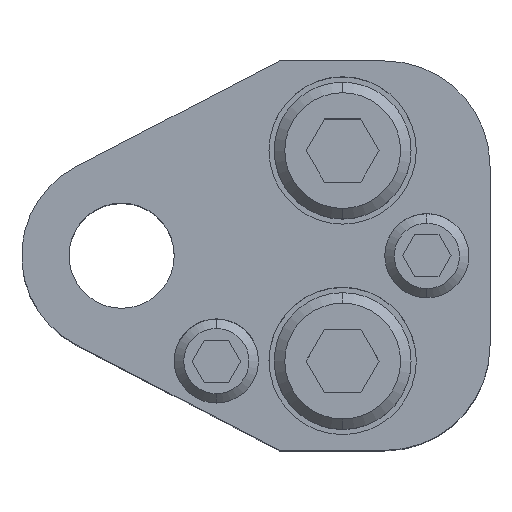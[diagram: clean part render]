
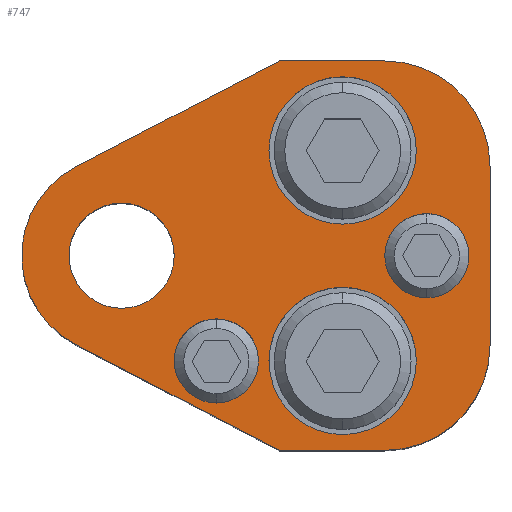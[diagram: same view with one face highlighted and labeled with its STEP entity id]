
A CAD part, top view. The second image highlights one B-rep face of the part: STEP entity #747.
In plain terms, the highlighted planar face has unit normal (0, 0, 1).
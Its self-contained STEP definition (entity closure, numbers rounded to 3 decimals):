
#429=LINE('',#3637,#593);
#433=LINE('',#3646,#597);
#437=LINE('',#3658,#601);
#441=LINE('',#3670,#605);
#444=LINE('',#3676,#608);
#593=VECTOR('',#2930,1.);
#597=VECTOR('',#2936,1.);
#601=VECTOR('',#2948,1.);
#605=VECTOR('',#2960,1.);
#608=VECTOR('',#2965,1.);
#747=ADVANCED_FACE('',(#853,#854,#855,#856,#857,#858),#823,.T.);
#823=PLANE('',#2443);
#853=FACE_BOUND('',#997,.T.);
#854=FACE_BOUND('',#998,.T.);
#855=FACE_BOUND('',#999,.T.);
#856=FACE_BOUND('',#1000,.T.);
#857=FACE_BOUND('',#1001,.T.);
#858=FACE_BOUND('',#1002,.T.);
#997=EDGE_LOOP('',(#1511,#1512,#1513,#1514,#1515,#1516,#1517,#1518));
#998=EDGE_LOOP('',(#1519,#1520));
#999=EDGE_LOOP('',(#1521,#1522));
#1000=EDGE_LOOP('',(#1523,#1524));
#1001=EDGE_LOOP('',(#1525,#1526));
#1002=EDGE_LOOP('',(#1527,#1528));
#1511=ORIENTED_EDGE('',*,*,#2004,.T.);
#1512=ORIENTED_EDGE('',*,*,#2008,.T.);
#1513=ORIENTED_EDGE('',*,*,#2011,.T.);
#1514=ORIENTED_EDGE('',*,*,#2014,.T.);
#1515=ORIENTED_EDGE('',*,*,#2017,.T.);
#1516=ORIENTED_EDGE('',*,*,#2020,.T.);
#1517=ORIENTED_EDGE('',*,*,#2023,.T.);
#1518=ORIENTED_EDGE('',*,*,#2026,.T.);
#1519=ORIENTED_EDGE('',*,*,#2061,.F.);
#1520=ORIENTED_EDGE('',*,*,#2062,.F.);
#1521=ORIENTED_EDGE('',*,*,#2063,.F.);
#1522=ORIENTED_EDGE('',*,*,#2064,.F.);
#1523=ORIENTED_EDGE('',*,*,#2051,.F.);
#1524=ORIENTED_EDGE('',*,*,#2047,.F.);
#1525=ORIENTED_EDGE('',*,*,#2045,.F.);
#1526=ORIENTED_EDGE('',*,*,#2041,.F.);
#1527=ORIENTED_EDGE('',*,*,#2065,.T.);
#1528=ORIENTED_EDGE('',*,*,#2066,.T.);
#1744=VERTEX_POINT('',#3636);
#1745=VERTEX_POINT('',#3638);
#1748=VERTEX_POINT('',#3645);
#1750=VERTEX_POINT('',#3651);
#1752=VERTEX_POINT('',#3657);
#1754=VERTEX_POINT('',#3663);
#1756=VERTEX_POINT('',#3669);
#1758=VERTEX_POINT('',#3675);
#1771=VERTEX_POINT('',#3712);
#1772=VERTEX_POINT('',#3713);
#1775=VERTEX_POINT('',#3724);
#1776=VERTEX_POINT('',#3725);
#1783=VERTEX_POINT('',#3752);
#1784=VERTEX_POINT('',#3753);
#1785=VERTEX_POINT('',#3756);
#1786=VERTEX_POINT('',#3757);
#1787=VERTEX_POINT('',#3760);
#1788=VERTEX_POINT('',#3761);
#2004=EDGE_CURVE('',#1745,#1744,#429,.T.);
#2008=EDGE_CURVE('',#1744,#1748,#433,.T.);
#2011=EDGE_CURVE('',#1748,#1750,#2171,.T.);
#2014=EDGE_CURVE('',#1750,#1752,#437,.T.);
#2017=EDGE_CURVE('',#1752,#1754,#2173,.T.);
#2020=EDGE_CURVE('',#1754,#1756,#441,.T.);
#2023=EDGE_CURVE('',#1756,#1758,#444,.T.);
#2026=EDGE_CURVE('',#1758,#1745,#2176,.T.);
#2041=EDGE_CURVE('',#1771,#1772,#2189,.T.);
#2045=EDGE_CURVE('',#1772,#1771,#2191,.T.);
#2047=EDGE_CURVE('',#1775,#1776,#2193,.T.);
#2051=EDGE_CURVE('',#1776,#1775,#2195,.T.);
#2061=EDGE_CURVE('',#1783,#1784,#2201,.T.);
#2062=EDGE_CURVE('',#1784,#1783,#2202,.T.);
#2063=EDGE_CURVE('',#1785,#1786,#2203,.T.);
#2064=EDGE_CURVE('',#1786,#1785,#2204,.T.);
#2065=EDGE_CURVE('',#1787,#1788,#2205,.T.);
#2066=EDGE_CURVE('',#1788,#1787,#2206,.T.);
#2171=CIRCLE('',#2390,10.);
#2173=CIRCLE('',#2394,10.);
#2176=CIRCLE('',#2400,9.5);
#2189=CIRCLE('',#2417,4.);
#2191=CIRCLE('',#2420,4.);
#2193=CIRCLE('',#2423,4.);
#2195=CIRCLE('',#2426,4.);
#2201=CIRCLE('',#2437,7.);
#2202=CIRCLE('',#2438,7.);
#2203=CIRCLE('',#2439,7.);
#2204=CIRCLE('',#2440,7.);
#2205=CIRCLE('',#2441,5.);
#2206=CIRCLE('',#2442,5.);
#2390=AXIS2_PLACEMENT_3D('',#3652,#2941,#2942);
#2394=AXIS2_PLACEMENT_3D('',#3664,#2953,#2954);
#2400=AXIS2_PLACEMENT_3D('',#3680,#2971,#2972);
#2417=AXIS2_PLACEMENT_3D('',#3711,#3007,#3008);
#2420=AXIS2_PLACEMENT_3D('',#3720,#3015,#3016);
#2423=AXIS2_PLACEMENT_3D('',#3723,#3021,#3022);
#2426=AXIS2_PLACEMENT_3D('',#3732,#3029,#3030);
#2437=AXIS2_PLACEMENT_3D('',#3751,#3055,#3056);
#2438=AXIS2_PLACEMENT_3D('',#3754,#3057,#3058);
#2439=AXIS2_PLACEMENT_3D('',#3755,#3059,#3060);
#2440=AXIS2_PLACEMENT_3D('',#3758,#3061,#3062);
#2441=AXIS2_PLACEMENT_3D('',#3759,#3063,#3064);
#2442=AXIS2_PLACEMENT_3D('',#3762,#3065,#3066);
#2443=AXIS2_PLACEMENT_3D('',#3763,#3067,#3068);
#2930=DIRECTION('',(0.887,-0.461,0.));
#2936=DIRECTION('',(1.,0.,0.));
#2941=DIRECTION('',(0.,0.,1.));
#2942=DIRECTION('',(-0.707,0.707,0.));
#2948=DIRECTION('',(0.,1.,0.));
#2953=DIRECTION('',(0.,0.,1.));
#2954=DIRECTION('',(-0.707,-0.707,0.));
#2960=DIRECTION('',(-1.,0.,0.));
#2965=DIRECTION('',(-0.887,-0.461,0.));
#2971=DIRECTION('',(0.,0.,1.));
#2972=DIRECTION('',(1.,0.,0.));
#3007=DIRECTION('',(0.,0.,1.));
#3008=DIRECTION('',(-1.,0.,0.));
#3015=DIRECTION('',(0.,0.,1.));
#3016=DIRECTION('',(1.,0.,0.));
#3021=DIRECTION('',(0.,0.,1.));
#3022=DIRECTION('',(-1.,0.,0.));
#3029=DIRECTION('',(0.,0.,1.));
#3030=DIRECTION('',(1.,0.,0.));
#3055=DIRECTION('',(0.,0.,1.));
#3056=DIRECTION('',(1.,0.,0.));
#3057=DIRECTION('',(0.,0.,1.));
#3058=DIRECTION('',(-1.,0.,0.));
#3059=DIRECTION('',(0.,0.,1.));
#3060=DIRECTION('',(1.,0.,0.));
#3061=DIRECTION('',(0.,0.,1.));
#3062=DIRECTION('',(-1.,0.,0.));
#3063=DIRECTION('',(0.,0.,-1.));
#3064=DIRECTION('',(-1.,0.,0.));
#3065=DIRECTION('',(0.,0.,-1.));
#3066=DIRECTION('',(1.,0.,0.));
#3067=DIRECTION('',(0.,0.,1.));
#3068=DIRECTION('',(0.887,-0.461,0.));
#3636=CARTESIAN_POINT('',(15.,-18.5,35.));
#3637=CARTESIAN_POINT('',(15.,-18.5,35.));
#3638=CARTESIAN_POINT('',(-4.38,-8.43,35.));
#3645=CARTESIAN_POINT('',(25.,-18.5,35.));
#3646=CARTESIAN_POINT('',(15.,-18.5,35.));
#3651=CARTESIAN_POINT('',(35.,-8.5,35.));
#3652=CARTESIAN_POINT('',(25.,-8.5,35.));
#3657=CARTESIAN_POINT('',(35.,8.5,35.));
#3658=CARTESIAN_POINT('',(35.,8.5,35.));
#3663=CARTESIAN_POINT('',(25.,18.5,35.));
#3664=CARTESIAN_POINT('',(25.,8.5,35.));
#3669=CARTESIAN_POINT('',(15.,18.5,35.));
#3670=CARTESIAN_POINT('',(15.,18.5,35.));
#3675=CARTESIAN_POINT('',(-4.38,8.43,35.));
#3676=CARTESIAN_POINT('',(15.,18.5,35.));
#3680=CARTESIAN_POINT('',(0.,0.,35.));
#3711=CARTESIAN_POINT('',(9.,-10.,35.));
#3712=CARTESIAN_POINT('',(9.,-14.,35.));
#3713=CARTESIAN_POINT('',(9.,-6.,35.));
#3720=CARTESIAN_POINT('',(9.,-10.,35.));
#3723=CARTESIAN_POINT('',(29.,0.,35.));
#3724=CARTESIAN_POINT('',(29.,-4.,35.));
#3725=CARTESIAN_POINT('',(29.,4.,35.));
#3732=CARTESIAN_POINT('',(29.,0.,35.));
#3751=CARTESIAN_POINT('',(21.,10.,35.));
#3752=CARTESIAN_POINT('',(21.,17.,35.));
#3753=CARTESIAN_POINT('',(21.,3.,35.));
#3754=CARTESIAN_POINT('',(21.,10.,35.));
#3755=CARTESIAN_POINT('',(21.,-10.,35.));
#3756=CARTESIAN_POINT('',(21.,-3.,35.));
#3757=CARTESIAN_POINT('',(21.,-17.,35.));
#3758=CARTESIAN_POINT('',(21.,-10.,35.));
#3759=CARTESIAN_POINT('',(0.,0.,35.));
#3760=CARTESIAN_POINT('',(0.,5.,35.));
#3761=CARTESIAN_POINT('',(0.,-5.,35.));
#3762=CARTESIAN_POINT('',(0.,0.,35.));
#3763=CARTESIAN_POINT('',(-4.38,-8.43,35.));
